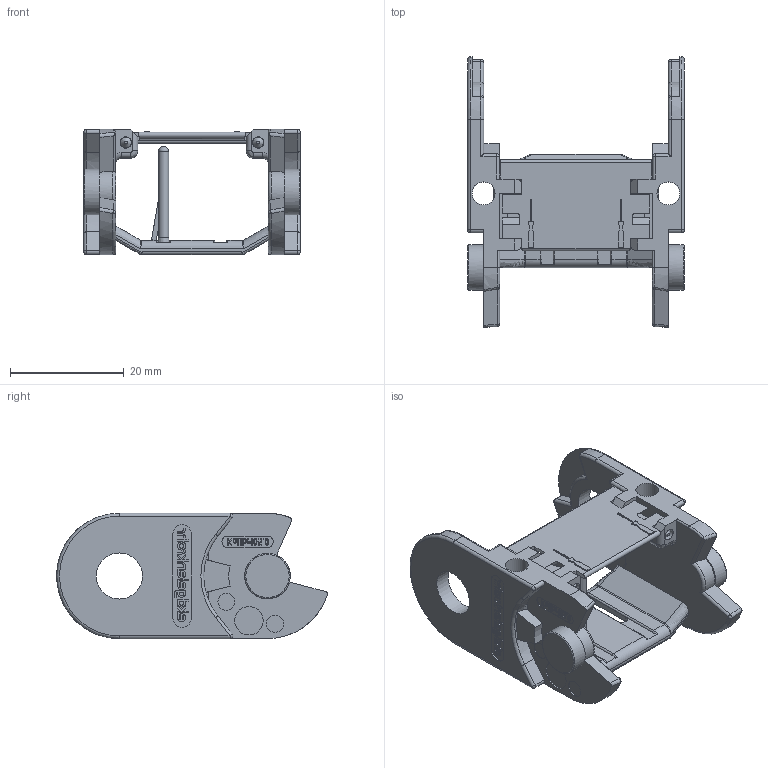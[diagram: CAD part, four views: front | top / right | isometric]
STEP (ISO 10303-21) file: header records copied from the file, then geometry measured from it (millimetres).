
FILE_DESCRIPTION((''),'2;1');
FILE_NAME('E:\Uebbing\PARAMETERKETTEN\KOLIBRI\Kol_22_038_0\Kol_22_038_0.stp','2020-03-11T10:12:39',('Nutzer'),(''),'Autodesk Inventor 10','Autodesk Inventor 10','');
FILE_SCHEMA(('AUTOMOTIVE_DESIGN { 1 0 10303 214 1 1 1 1 }'));
Length unit declared in the file: millimetre
Products named in the file (4): Kol_22_038_0; Kol_22_038_0_PZ_Stecksteg; Kol_22_038_0_Klappsteg; Kol_22_038_0_Lasche
Assembly tree (3 placements, depth 2):
  Kol_22_038_0
    Kol_22_038_0_PZ_Stecksteg
    Kol_22_038_0_Klappsteg
    Kol_22_038_0_Lasche
Bounding box: 38 x 47.5 x 22 mm (x, y, z)
Volume: 7337 mm3; surface area: 8329.2 mm2
Topology: 3 solids, 3 shells, 1415 faces, 3775 edges, 2449 vertices
Faces by surface type: plane 660, bspline 404, cylinder 276, torus 46, sphere 19, cone 10
Full cylindrical faces by diameter (mm): 0.804 x2, 1.412 x2, 1.9 x4, 2 x4, 3 x6, 4 x2, 5 x2, 8 x2, 8.1 x2
Entity records: 48180 total; most frequent: CARTESIAN_POINT 15336, ORIENTED_EDGE 7420, DIRECTION 5623, EDGE_CURVE 3710, VERTEX_POINT 2435, VECTOR 2193, LINE 2193, AXIS2_PLACEMENT_3D 1715
